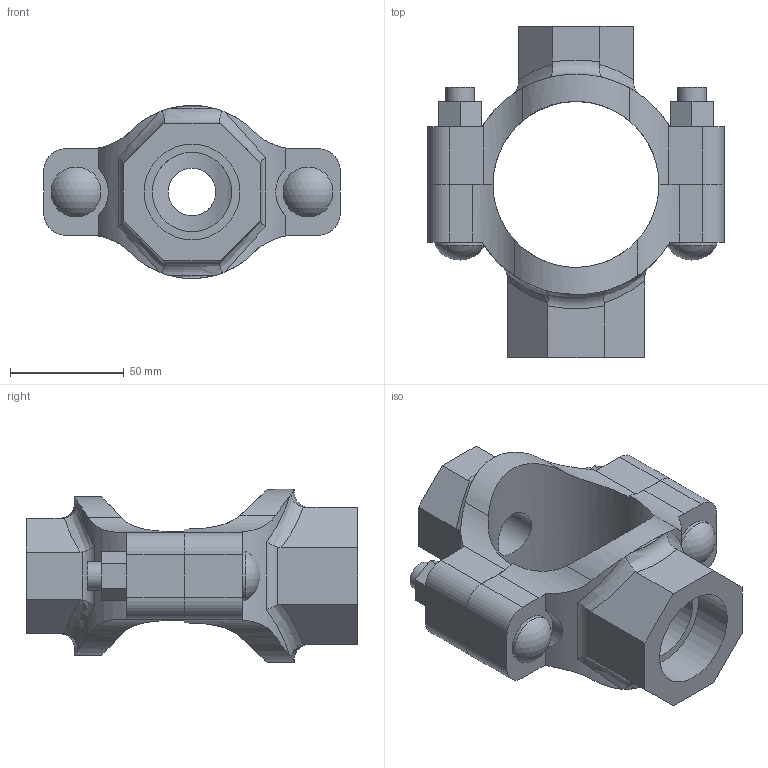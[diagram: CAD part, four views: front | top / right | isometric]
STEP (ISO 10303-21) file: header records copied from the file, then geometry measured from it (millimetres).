
FILE_DESCRIPTION(/* description */ ('VIC MECH-T BRANCH OUTLET CROSS STYLE 920N (THD)','CAx-IF Rec.Pracs.---Representation and Presentation of Product Manufacturing Information (PMI)---4.0---2014-10-13'),/* implementation_level */ '2;1');
FILE_NAME(/* name */ 'C:\Users\Vjadhav\AppData\Roaming\Autodesk\ApplicationPlugins\Back Up\Victaulic_IPS_Mechanical-Cross Outlet_Style 920N (FPT)\Victaulic_IPS_Mechanical-Cross Outlet_02.5x0.75x01.25 (65x20x32).stp',/* time_stamp */ '2020-08-06T18:56:35+05:00',/* author */ ('Vjadhav'),/* organization */ ('Victaulic'),/* preprocessor_version */ 'ST-DEVELOPER v17.2',/* originating_system */ 'Autodesk Inventor 2019',/* authorisation */ '');
FILE_SCHEMA (('AP242_MANAGED_MODEL_BASED_3D_ENGINEERING_MIM_LF { 1 0 10303 442 1 1 4 }'));
Length unit declared in the file: inch
Products named in the file (3): 920NT-02.5x0.75x01.25; 920NT-02.5x0.75; 920NT-02.5x01.25
Assembly tree (2 placements, depth 2):
  920NT-02.5x0.75x01.25
    920NT-02.5x0.75
    920NT-02.5x01.25
Bounding box: 130.56 x 145.8 x 76.2 mm (x, y, z)
Volume: 316483.1 mm3; surface area: 72381.3 mm2
Topology: 2 solids, 2 shells, 135 faces, 362 edges, 244 vertices
Faces by surface type: plane 68, cylinder 53, bspline 8, torus 4, sphere 2
Full cylindrical faces by diameter (mm): 12.7 x4, 20.93 x1, 21.982 x2, 26.67 x1, 34.925 x1, 42.164 x1
Entity records: 5247 total; most frequent: CARTESIAN_POINT 1656, ORIENTED_EDGE 724, DIRECTION 654, EDGE_CURVE 362, VERTEX_POINT 244, AXIS2_PLACEMENT_3D 234, LINE 186, VECTOR 186
